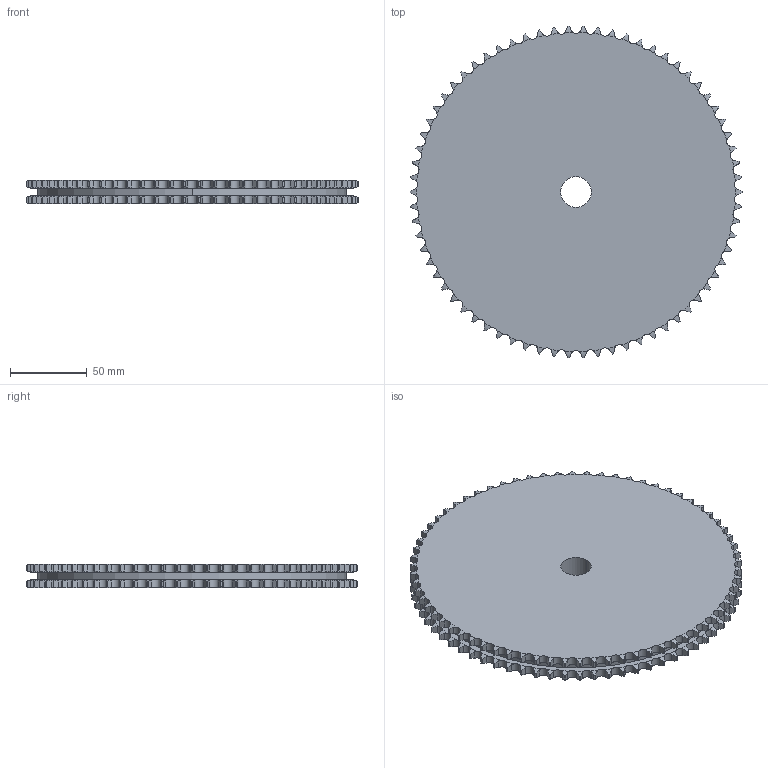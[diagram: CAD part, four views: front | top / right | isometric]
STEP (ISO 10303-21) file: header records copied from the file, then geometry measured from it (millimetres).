
FILE_DESCRIPTION((''),'2;1');
FILE_NAME('500-102-0070_PRT','2021-02-12T',('Brieden'),('Brieden'),'PRO/ENGINEER BY PARAMETRIC TECHNOLOGY CORPORATION, 2010160','PRO/ENGINEER BY PARAMETRIC TECHNOLOGY CORPORATION, 2010160','');
FILE_SCHEMA(('AUTOMOTIVE_DESIGN { 1 0 10303 214 1 1 1 1 }'));
Length unit declared in the file: millimetre
Products named in the file (1): 500-102-0070_PRT
Bounding box: 215.7 x 215.52 x 15.4 mm (x, y, z)
Volume: 510998.5 mm3; surface area: 88176.4 mm2
Topology: 1 solids, 1 shells, 848 faces, 2532 edges, 1688 vertices
Faces by surface type: cylinder 564, torus 280, plane 4
Entity records: 41868 total; most frequent: CARTESIAN_POINT 12765, ORIENTED_EDGE 5064, DIRECTION 3956, PRESENTATION_STYLE_ASSIGNMENT 2533, STYLED_ITEM 2533, CURVE_STYLE 2532, EDGE_CURVE 2532, AXIS2_PLACEMENT_3D 1696
